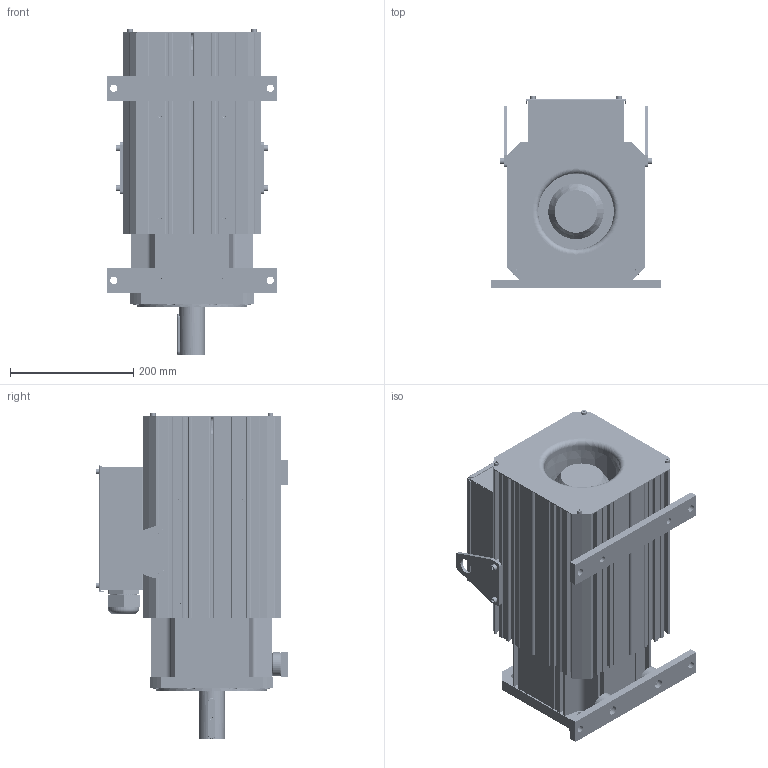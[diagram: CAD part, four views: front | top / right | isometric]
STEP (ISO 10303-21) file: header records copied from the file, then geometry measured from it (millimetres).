
FILE_DESCRIPTION (( 'STEP AP203' ), '1' );
FILE_NAME ('ZE1805耀倰.STEP', '2024-06-20T01:22:26', ( 'MicroSoft' ), ( 'MicroSoft' ), 'SwSTEP 2.0', 'SolidWorks 2020', '' );
FILE_SCHEMA (( 'CONFIG_CONTROL_DESIGN' ));
Length unit declared in the file: millimetre
Products named in the file (36): Z18-01-02(18前法兰); PG 36滅阨諉芛 1; Z18-01-18(絳瑞啣C)_1805; M6 T倰蹟譫; 内六角圆柱头螺钉[GB／T70.1-2008][M8×30]_M8×30; 25諉盄碟郪璃; 内六角圆柱头螺钉[GB／T70.1-2008][M6×16]_M6×16; ZE1805耀倰; Z18-01-19(絳瑞啣D)_1805; 18す瑩酗60; 25諉盄碟; Z18-01-21(18綴結啣); 18萇儂霧齪; 内六角圆柱头螺钉[GB／T70.1-2008][M5×35]_M5×10; Z18-01-20(18盓殤菜輸); Z18-01-14(萇儂菁褐盓殤-1); Z18-01-17(絳瑞啣B)_1805; Z18-01-03(18极胜后法兰)_常规款; PG 36滅阨諉芛 2; 裂嫉; 内六角圆柱头螺钉[GB／T70.1-2008][M5×10]_M5×10; GB╱T 70.1-2008[内六角圆柱头螺钉M5×20]_M5×20; Z18-05袪粣羲諳す瑩_1805; Z25-01-24（25接线盒盖板）; PG 36滅阨諉芛 3; Z25-01-25（25接线盒密封垫）; Z25-01-27（25端子固定片）; Z18-01-16(絳瑞啣A)_1805; Z18-01-15(萇儂菁褐盓殤-2); 18风扇-175FLW-3 380V（3080103010006）; GB╱T 276-2013[深沟球轴承[60000]6306]; PG 36滅阨諉芛; GB／T276-94深沟球轴承6309-2Z; Z航插15芯（公头电机端）28; Z18-01-01(18儂褲)_1805; Z25-01-23（25接线盒焊接）
Assembly tree (64 placements, depth 4):
  ZE1805耀倰
    Z18-01-01(18儂褲)_1805
    Z18-01-02(18前法兰)
    Z18-01-03(18极胜后法兰)_常规款
    Z18-05袪粣羲諳す瑩_1805
    Z18-01-14(萇儂菁褐盓殤-1)
    Z18-01-15(萇儂菁褐盓殤-2)
    Z18-01-20(18盓殤菜輸)  x2
    Z18-01-21(18綴結啣)
    GB／T276-94深沟球轴承6309-2Z
    GB╱T 276-2013[深沟球轴承[60000]6306]
    18す瑩酗60
    18风扇-175FLW-3 380V（3080103010006）
    18萇儂霧齪
    Z18-01-16(絳瑞啣A)_1805
    Z18-01-17(絳瑞啣B)_1805
    Z18-01-18(絳瑞啣C)_1805  x3
    Z18-01-19(絳瑞啣D)_1805  x3
    内六角圆柱头螺钉[GB／T70.1-2008][M8×30]_M8×30  x8
    内六角圆柱头螺钉[GB／T70.1-2008][M5×35]_M5×10  x5
    裂嫉  x2
    内六角圆柱头螺钉[GB／T70.1-2008][M6×16]_M6×16  x4
    M6 T倰蹟譫  x4
    内六角圆柱头螺钉[GB／T70.1-2008][M5×10]_M5×10  x4
    25諉盄碟
      PG 36滅阨諉芛
        PG 36滅阨諉芛 2
        PG 36滅阨諉芛 3
        PG 36滅阨諉芛 1
      25諉盄碟郪璃
        Z25-01-23（25接线盒焊接）
        Z25-01-27（25端子固定片）
        Z25-01-24（25接线盒盖板）
        Z25-01-25（25接线盒密封垫）
      Z航插15芯（公头电机端）28
    GB╱T 70.1-2008[内六角圆柱头螺钉M5×20]_M5×20  x4
Bounding box: 277 x 312 x 529 mm (x, y, z)
Volume: 8132168.8 mm3; surface area: 2656500.3 mm2
Topology: 74 solids, 74 shells, 4086 faces, 10990 edges, 7043 vertices
Faces by surface type: cylinder 1646, plane 1643, cone 293, torus 192, sphere 173, bspline 139
Entity records: 120650 total; most frequent: CARTESIAN_POINT 42621, ORIENTED_EDGE 15788, DIRECTION 15116, EDGE_CURVE 7894, AXIS2_PLACEMENT_3D 5679, VERTEX_POINT 5113, VECTOR 3758, LINE 3758
